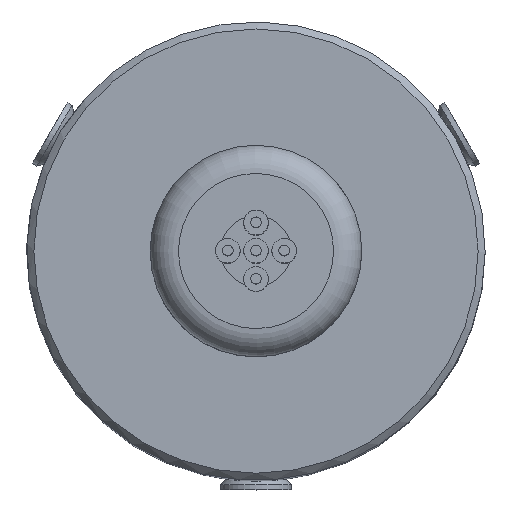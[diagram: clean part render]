
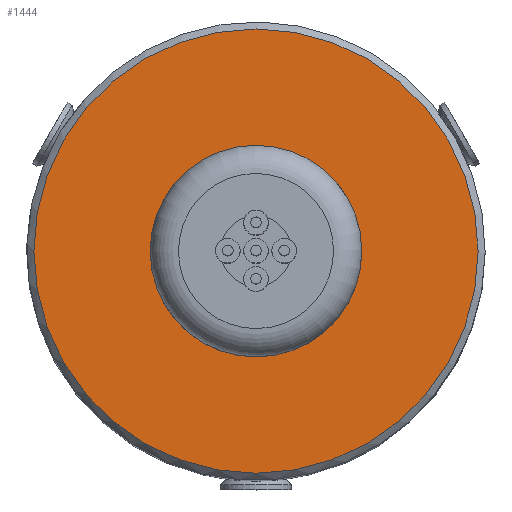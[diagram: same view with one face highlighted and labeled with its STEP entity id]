
A CAD part, top view. The second image highlights one B-rep face of the part: STEP entity #1444.
In plain terms, the highlighted planar face has unit normal (0, 0, 1).
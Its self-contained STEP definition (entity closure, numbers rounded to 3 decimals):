
#620 = VERTEX_POINT('',#621);
#621 = CARTESIAN_POINT('',(-2.611,1.477,20.8));
#626 = EDGE_CURVE('',#627,#620,#629,.T.);
#627 = VERTEX_POINT('',#628);
#628 = CARTESIAN_POINT('',(-3.,0.,20.8));
#629 = CIRCLE('',#630,3.);
#630 = AXIS2_PLACEMENT_3D('',#631,#632,#633);
#631 = CARTESIAN_POINT('',(0.,0.,20.8));
#632 = DIRECTION('',(0.,0.,-1.));
#633 = DIRECTION('',(-1.,0.,0.));
#635 = EDGE_CURVE('',#620,#627,#636,.T.);
#636 = CIRCLE('',#637,3.);
#637 = AXIS2_PLACEMENT_3D('',#638,#639,#640);
#638 = CARTESIAN_POINT('',(0.,0.,20.8));
#639 = DIRECTION('',(0.,0.,-1.));
#640 = DIRECTION('',(-1.,0.,0.));
#1423 = EDGE_CURVE('',#1424,#1424,#1426,.T.);
#1424 = VERTEX_POINT('',#1425);
#1425 = CARTESIAN_POINT('',(5.456,-3.15,20.8));
#1426 = CIRCLE('',#1427,6.3);
#1427 = AXIS2_PLACEMENT_3D('',#1428,#1429,#1430);
#1428 = CARTESIAN_POINT('',(0.,0.,20.8)
  );
#1429 = DIRECTION('',(0.,0.,-1.));
#1430 = DIRECTION('',(0.866,-0.5,0.));
#1444 = ADVANCED_FACE('',(#1445,#1449),#1452,.F.);
#1445 = FACE_BOUND('',#1446,.T.);
#1446 = EDGE_LOOP('',(#1447,#1448));
#1447 = ORIENTED_EDGE('',*,*,#626,.T.);
#1448 = ORIENTED_EDGE('',*,*,#635,.T.);
#1449 = FACE_BOUND('',#1450,.T.);
#1450 = EDGE_LOOP('',(#1451));
#1451 = ORIENTED_EDGE('',*,*,#1423,.F.);
#1452 = PLANE('',#1453);
#1453 = AXIS2_PLACEMENT_3D('',#1454,#1455,#1456);
#1454 = CARTESIAN_POINT('',(-2.05,-3.551,20.8));
#1455 = DIRECTION('',(0.,0.,-1.));
#1456 = DIRECTION('',(0.866,-0.5,0.));
